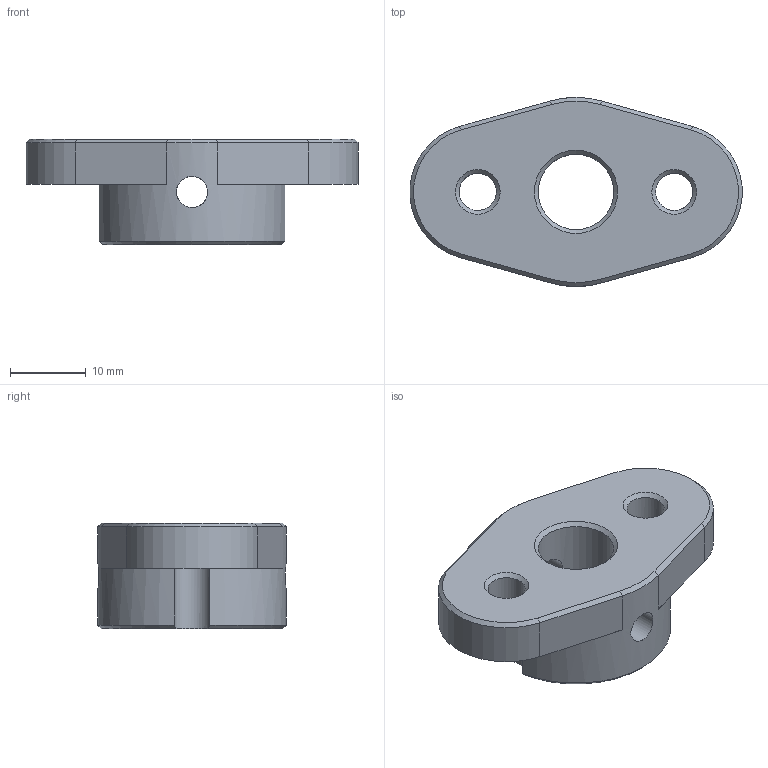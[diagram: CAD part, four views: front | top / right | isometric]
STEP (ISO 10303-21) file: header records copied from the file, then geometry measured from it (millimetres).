
FILE_DESCRIPTION( ( 'Unknown' ), '1' );
FILE_NAME( 'F:/navkite transat/construction/2016/3D ET ASSEMBLAGES/desal/DES 11.stp', 'Unknown', ( 'GMA' ), ( 'Unknown' ), 'XStep 1.0', 'Unknown', ' ' );
FILE_SCHEMA( ( 'automotive_design' ) );
Length unit declared in the file: millimetre
Products named in the file (1): 1
Bounding box: 43.93 x 25 x 14 mm (x, y, z)
Volume: 7258 mm3; surface area: 3439.4 mm2
Topology: 1 solids, 1 shells, 31 faces, 84 edges, 53 vertices
Faces by surface type: plane 12, cone 10, cylinder 9
Full cylindrical faces by diameter (mm): 4.134 x2, 4.917 x2, 10 x1
Entity records: 1398 total; most frequent: CARTESIAN_POINT 394, DIRECTION 156, ORIENTED_EDGE 140, EDGE_CURVE 70, AXIS2_PLACEMENT_3D 62, EDGE_LOOP 48, VERTEX_POINT 48, FACE_OUTER_BOUND 36
